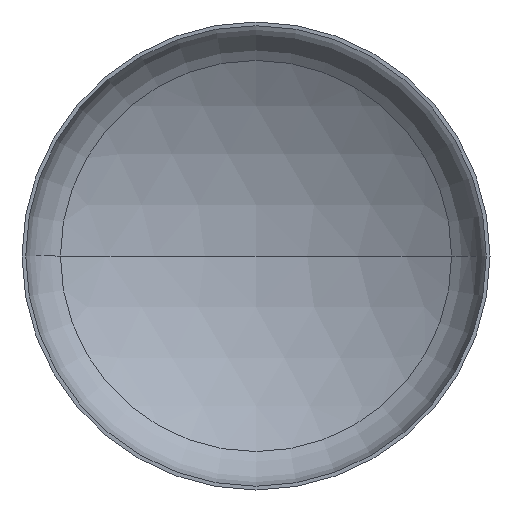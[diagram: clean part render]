
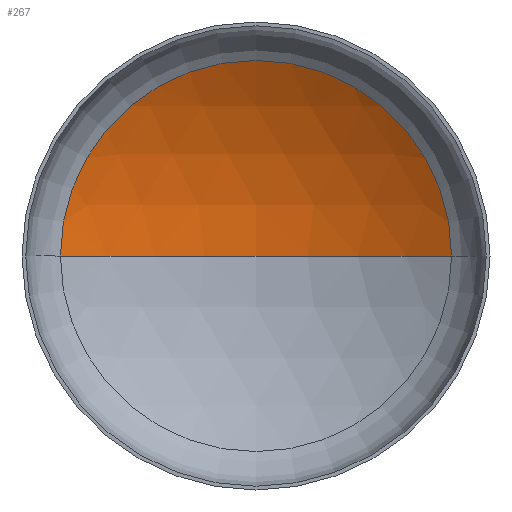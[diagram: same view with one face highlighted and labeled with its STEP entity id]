
A CAD part, front view. The second image highlights one B-rep face of the part: STEP entity #267.
In plain terms, the highlighted spherical face has radius 800 mm.
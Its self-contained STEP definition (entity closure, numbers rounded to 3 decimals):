
#3 = DIRECTION ( 'NONE',  ( 0., -1., 0. ) ) ;
#6 = AXIS2_PLACEMENT_3D ( 'NONE', #123, #130, #96 ) ;
#7 = AXIS2_PLACEMENT_3D ( 'NONE', #174, #373, #239 ) ;
#11 = CARTESIAN_POINT ( 'NONE',  ( 0., 157.161, 0. ) ) ;
#21 = AXIS2_PLACEMENT_3D ( 'NONE', #246, #255, #259 ) ;
#27 = EDGE_LOOP ( 'NONE', ( #125, #111, #54 ) ) ;
#29 = VERTEX_POINT ( 'NONE', #375 ) ;
#34 = AXIS2_PLACEMENT_3D ( 'NONE', #11, #3, #153 ) ;
#54 = ORIENTED_EDGE ( 'NONE', *, *, #113, .T. ) ;
#96 = DIRECTION ( 'NONE',  ( 1., 0., 0. ) ) ;
#110 = VERTEX_POINT ( 'NONE', #224 ) ;
#111 = ORIENTED_EDGE ( 'NONE', *, *, #348, .T. ) ;
#113 = EDGE_CURVE ( 'NONE', #110, #158, #406, .T. ) ;
#123 = CARTESIAN_POINT ( 'NONE',  ( 0., -524.96, 0. ) ) ;
#125 = ORIENTED_EDGE ( 'NONE', *, *, #355, .F. ) ;
#130 = DIRECTION ( 'NONE',  ( 0., 0., 1. ) ) ;
#145 = SPHERICAL_SURFACE ( 'NONE', #21, 800. ) ;
#153 = DIRECTION ( 'NONE',  ( 1., 0., 0. ) ) ;
#158 = VERTEX_POINT ( 'NONE', #408 ) ;
#174 = CARTESIAN_POINT ( 'NONE',  ( 0., -524.96, 0. ) ) ;
#195 = CIRCLE ( 'NONE', #6, 800. ) ;
#224 = CARTESIAN_POINT ( 'NONE',  ( 417.984, 157.161, 0. ) ) ;
#239 = DIRECTION ( 'NONE',  ( -1., 0., 0. ) ) ;
#246 = CARTESIAN_POINT ( 'NONE',  ( 0., -524.96, 0. ) ) ;
#255 = DIRECTION ( 'NONE',  ( 0., 0., -1. ) ) ;
#259 = DIRECTION ( 'NONE',  ( -1., 0., 0. ) ) ;
#267 = ADVANCED_FACE ( 'NONE', ( #349 ), #145, .F. ) ;
#326 = CIRCLE ( 'NONE', #7, 800. ) ;
#348 = EDGE_CURVE ( 'NONE', #29, #110, #326, .T. ) ;
#349 = FACE_OUTER_BOUND ( 'NONE', #27, .T. ) ;
#355 = EDGE_CURVE ( 'NONE', #29, #158, #195, .T. ) ;
#373 = DIRECTION ( 'NONE',  ( 0., 0., -1. ) ) ;
#375 = CARTESIAN_POINT ( 'NONE',  ( 0., 275.04, 0. ) ) ;
#406 = CIRCLE ( 'NONE', #34, 417.984 ) ;
#408 = CARTESIAN_POINT ( 'NONE',  ( -417.984, 157.161, 0. ) ) ;
